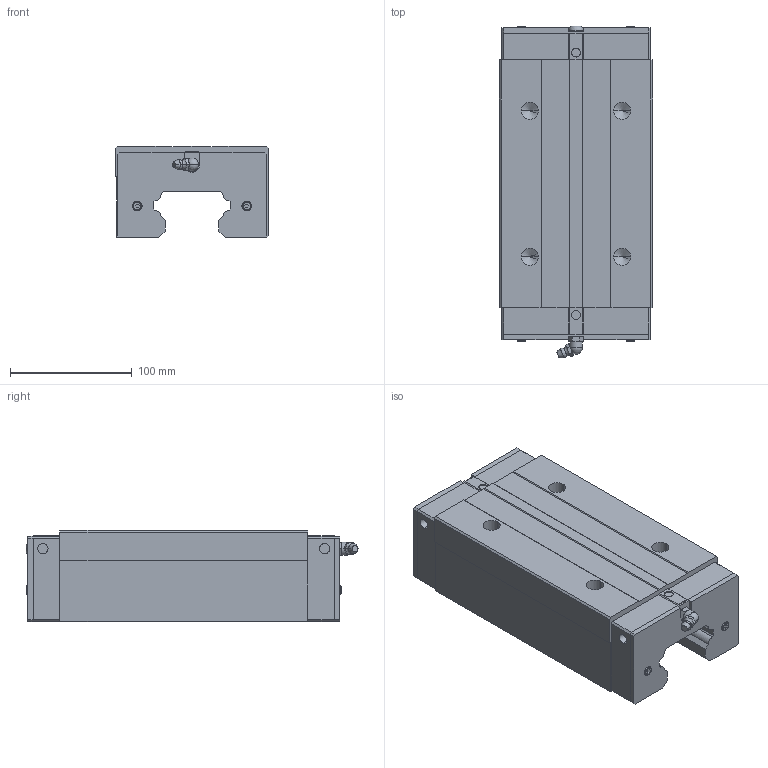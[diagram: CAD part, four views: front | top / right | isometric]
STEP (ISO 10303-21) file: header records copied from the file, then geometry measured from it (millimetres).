
FILE_DESCRIPTION(('no description'),'unknown implementation level');
FILE_NAME('HGH65HA_Z0_H_SS_15.stp',' ',('HIWIN GmbH'),('CADClick - KiM GmbH - www.kimweb.de'),'unknown preprocess','ACIS','unknown authorization');
FILE_SCHEMA(('automotive_design'));
Length unit declared in the file: millimetre
Products named in the file (1): HGH65HA Z0 H SS
Bounding box: 126 x 272.92 x 75 mm (x, y, z)
Volume: 1832771.5 mm3; surface area: 146469 mm2
Topology: 1 solids, 6 shells, 285 faces, 716 edges, 454 vertices
Faces by surface type: plane 171, cylinder 60, torus 30, cone 22, sphere 2
Entity records: 16692 total; most frequent: CARTESIAN_POINT 1746, STYLED_ITEM 1446, PRESENTATION_STYLE_ASSIGNMENT 1446, COLOUR_RGB 1446, DIRECTION 1428, ORIENTED_EDGE 1412, EDGE_CURVE 706, CURVE_STYLE 706
